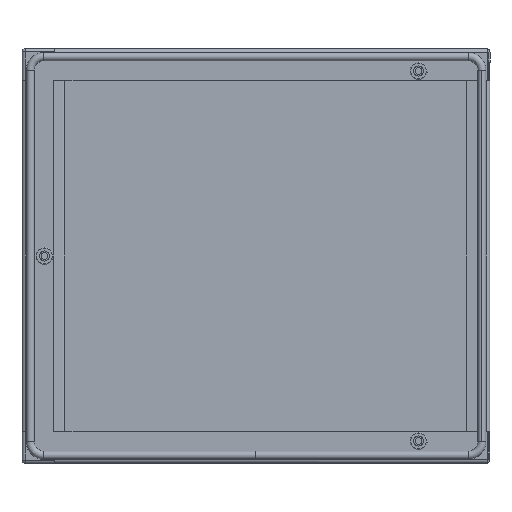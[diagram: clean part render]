
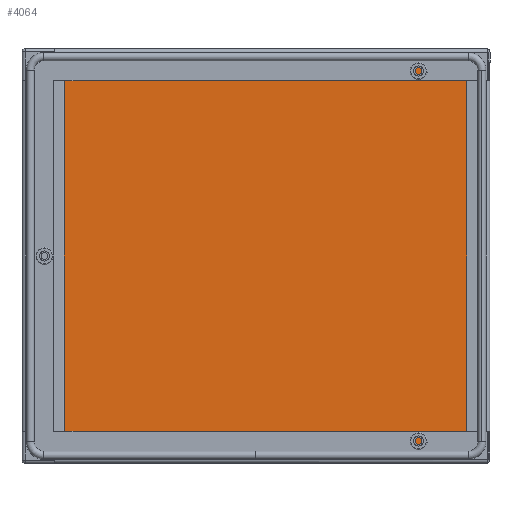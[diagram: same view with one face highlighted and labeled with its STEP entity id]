
A CAD part, left-side view. The second image highlights one B-rep face of the part: STEP entity #4064.
In plain terms, the highlighted planar face has unit normal (-1, 0, 0).
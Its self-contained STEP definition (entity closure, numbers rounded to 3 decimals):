
#90 = VERTEX_POINT ( 'NONE', #4578 ) ;
#206 = EDGE_CURVE ( 'NONE', #5285, #90, #2663, .T. ) ;
#288 = CARTESIAN_POINT ( 'NONE',  ( -1.4, -156.3, -149.6 ) ) ;
#372 = CARTESIAN_POINT ( 'NONE',  ( -1.4, -156.3, 150.8 ) ) ;
#383 = VECTOR ( 'NONE', #1689, 1000. ) ;
#595 = LINE ( 'NONE', #4649, #3891 ) ;
#602 = EDGE_CURVE ( 'NONE', #2384, #1521, #2389, .T. ) ;
#1072 = DIRECTION ( 'NONE',  ( 0., 1., 0. ) ) ;
#1234 = ORIENTED_EDGE ( 'NONE', *, *, #602, .F. ) ;
#1291 = CARTESIAN_POINT ( 'NONE',  ( -1.4, 153.699, -149.6 ) ) ;
#1521 = VERTEX_POINT ( 'NONE', #1291 ) ;
#1585 = FACE_OUTER_BOUND ( 'NONE', #4458, .T. ) ;
#1677 = DIRECTION ( 'NONE',  ( 0., 0., -1. ) ) ;
#1689 = DIRECTION ( 'NONE',  ( 0., -1., 0. ) ) ;
#2384 = VERTEX_POINT ( 'NONE', #5547 ) ;
#2389 = LINE ( 'NONE', #288, #3750 ) ;
#2610 = EDGE_CURVE ( 'NONE', #1521, #5285, #595, .T. ) ;
#2630 = ORIENTED_EDGE ( 'NONE', *, *, #3200, .F. ) ;
#2663 = LINE ( 'NONE', #5167, #383 ) ;
#2664 = DIRECTION ( 'NONE',  ( 0., 0., 1. ) ) ;
#2889 = ORIENTED_EDGE ( 'NONE', *, *, #206, .F. ) ;
#3060 = DIRECTION ( 'NONE',  ( -1., 0., 0. ) ) ;
#3200 = EDGE_CURVE ( 'NONE', #90, #2384, #5230, .T. ) ;
#3750 = VECTOR ( 'NONE', #1072, 1000. ) ;
#3891 = VECTOR ( 'NONE', #5505, 1000. ) ;
#3913 = PLANE ( 'NONE',  #5316 ) ;
#4064 = ADVANCED_FACE ( 'NONE', ( #1585 ), #3913, .T. ) ;
#4337 = ORIENTED_EDGE ( 'NONE', *, *, #2610, .F. ) ;
#4450 = CARTESIAN_POINT ( 'NONE',  ( -1.4, 153.699, 149.6 ) ) ;
#4458 = EDGE_LOOP ( 'NONE', ( #4337, #1234, #2630, #2889 ) ) ;
#4578 = CARTESIAN_POINT ( 'NONE',  ( -1.4, -156.3, 149.6 ) ) ;
#4625 = VECTOR ( 'NONE', #1677, 1000. ) ;
#4649 = CARTESIAN_POINT ( 'NONE',  ( -1.4, 153.699, -150.8 ) ) ;
#4826 = CARTESIAN_POINT ( 'NONE',  ( -1.4, 0., 0. ) ) ;
#5167 = CARTESIAN_POINT ( 'NONE',  ( -1.4, 153.699, 149.6 ) ) ;
#5230 = LINE ( 'NONE', #372, #4625 ) ;
#5285 = VERTEX_POINT ( 'NONE', #4450 ) ;
#5316 = AXIS2_PLACEMENT_3D ( 'NONE', #4826, #3060, #2664 ) ;
#5505 = DIRECTION ( 'NONE',  ( 0., 0., 1. ) ) ;
#5547 = CARTESIAN_POINT ( 'NONE',  ( -1.4, -156.3, -149.6 ) ) ;
